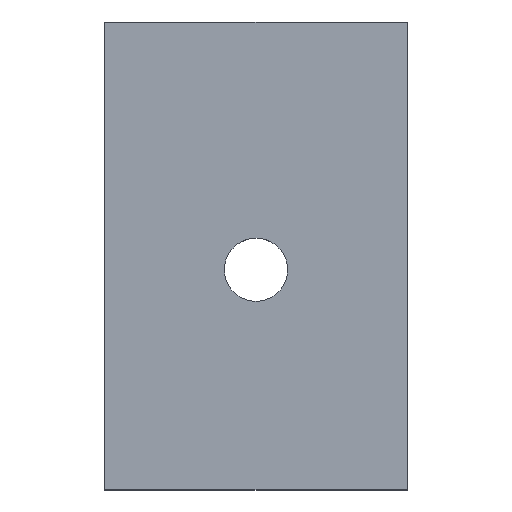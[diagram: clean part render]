
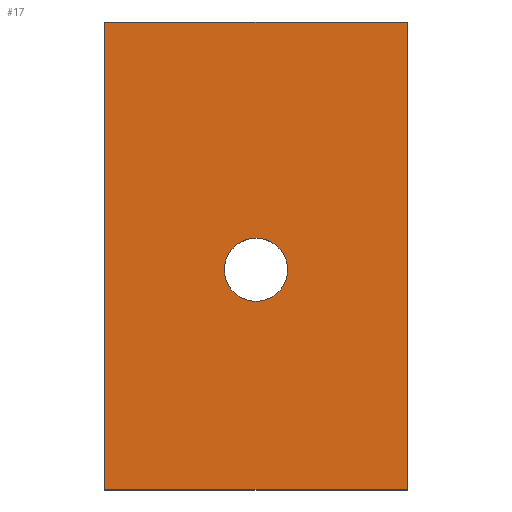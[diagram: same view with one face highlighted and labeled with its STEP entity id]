
A CAD part, top view. The second image highlights one B-rep face of the part: STEP entity #17.
In plain terms, the highlighted planar face has unit normal (0, 0, 1).
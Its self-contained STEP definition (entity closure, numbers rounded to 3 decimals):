
#17 = ADVANCED_FACE('',(#18,#137),#32,.F.);
#18 = FACE_BOUND('',#19,.F.);
#19 = EDGE_LOOP('',(#20,#55,#83,#111));
#20 = ORIENTED_EDGE('',*,*,#21,.F.);
#21 = EDGE_CURVE('',#22,#24,#26,.T.);
#22 = VERTEX_POINT('',#23);
#23 = CARTESIAN_POINT('',(-33.,0.,170.));
#24 = VERTEX_POINT('',#25);
#25 = CARTESIAN_POINT('',(-55.,0.,170.));
#26 = SURFACE_CURVE('',#27,(#31,#43),.PCURVE_S1.);
#27 = LINE('',#28,#29);
#28 = CARTESIAN_POINT('',(-33.,0.,170.));
#29 = VECTOR('',#30,1.);
#30 = DIRECTION('',(-1.,0.,0.));
#31 = PCURVE('',#32,#37);
#32 = PLANE('',#33);
#33 = AXIS2_PLACEMENT_3D('',#34,#35,#36);
#34 = CARTESIAN_POINT('',(-55.,0.,170.));
#35 = DIRECTION('',(0.,0.,-1.));
#36 = DIRECTION('',(0.,-1.,0.));
#37 = DEFINITIONAL_REPRESENTATION('',(#38),#42);
#38 = LINE('',#39,#40);
#39 = CARTESIAN_POINT('',(0.,-22.));
#40 = VECTOR('',#41,1.);
#41 = DIRECTION('',(0.,1.));
#42 = ( GEOMETRIC_REPRESENTATION_CONTEXT(2) 
PARAMETRIC_REPRESENTATION_CONTEXT() REPRESENTATION_CONTEXT('2D SPACE',''
  ) );
#43 = PCURVE('',#44,#49);
#44 = PLANE('',#45);
#45 = AXIS2_PLACEMENT_3D('',#46,#47,#48);
#46 = CARTESIAN_POINT('',(-55.,0.,136.));
#47 = DIRECTION('',(0.,-1.,0.));
#48 = DIRECTION('',(0.,0.,1.));
#49 = DEFINITIONAL_REPRESENTATION('',(#50),#54);
#50 = LINE('',#51,#52);
#51 = CARTESIAN_POINT('',(34.,-22.));
#52 = VECTOR('',#53,1.);
#53 = DIRECTION('',(0.,1.));
#54 = ( GEOMETRIC_REPRESENTATION_CONTEXT(2) 
PARAMETRIC_REPRESENTATION_CONTEXT() REPRESENTATION_CONTEXT('2D SPACE',''
  ) );
#55 = ORIENTED_EDGE('',*,*,#56,.F.);
#56 = EDGE_CURVE('',#57,#22,#59,.T.);
#57 = VERTEX_POINT('',#58);
#58 = CARTESIAN_POINT('',(-33.,-34.,170.));
#59 = SURFACE_CURVE('',#60,(#64,#71),.PCURVE_S1.);
#60 = LINE('',#61,#62);
#61 = CARTESIAN_POINT('',(-33.,-34.,170.));
#62 = VECTOR('',#63,1.);
#63 = DIRECTION('',(0.,1.,0.));
#64 = PCURVE('',#32,#65);
#65 = DEFINITIONAL_REPRESENTATION('',(#66),#70);
#66 = LINE('',#67,#68);
#67 = CARTESIAN_POINT('',(34.,-22.));
#68 = VECTOR('',#69,1.);
#69 = DIRECTION('',(-1.,0.));
#70 = ( GEOMETRIC_REPRESENTATION_CONTEXT(2) 
PARAMETRIC_REPRESENTATION_CONTEXT() REPRESENTATION_CONTEXT('2D SPACE',''
  ) );
#71 = PCURVE('',#72,#77);
#72 = PLANE('',#73);
#73 = AXIS2_PLACEMENT_3D('',#74,#75,#76);
#74 = CARTESIAN_POINT('',(-33.,-17.,167.5));
#75 = DIRECTION('',(1.,0.,0.));
#76 = DIRECTION('',(0.,-1.,0.));
#77 = DEFINITIONAL_REPRESENTATION('',(#78),#82);
#78 = LINE('',#79,#80);
#79 = CARTESIAN_POINT('',(17.,-2.5));
#80 = VECTOR('',#81,1.);
#81 = DIRECTION('',(-1.,0.));
#82 = ( GEOMETRIC_REPRESENTATION_CONTEXT(2) 
PARAMETRIC_REPRESENTATION_CONTEXT() REPRESENTATION_CONTEXT('2D SPACE',''
  ) );
#83 = ORIENTED_EDGE('',*,*,#84,.F.);
#84 = EDGE_CURVE('',#85,#57,#87,.T.);
#85 = VERTEX_POINT('',#86);
#86 = CARTESIAN_POINT('',(-55.,-34.,170.));
#87 = SURFACE_CURVE('',#88,(#92,#99),.PCURVE_S1.);
#88 = LINE('',#89,#90);
#89 = CARTESIAN_POINT('',(-55.,-34.,170.));
#90 = VECTOR('',#91,1.);
#91 = DIRECTION('',(1.,0.,0.));
#92 = PCURVE('',#32,#93);
#93 = DEFINITIONAL_REPRESENTATION('',(#94),#98);
#94 = LINE('',#95,#96);
#95 = CARTESIAN_POINT('',(34.,0.));
#96 = VECTOR('',#97,1.);
#97 = DIRECTION('',(0.,-1.));
#98 = ( GEOMETRIC_REPRESENTATION_CONTEXT(2) 
PARAMETRIC_REPRESENTATION_CONTEXT() REPRESENTATION_CONTEXT('2D SPACE',''
  ) );
#99 = PCURVE('',#100,#105);
#100 = PLANE('',#101);
#101 = AXIS2_PLACEMENT_3D('',#102,#103,#104);
#102 = CARTESIAN_POINT('',(-55.,-34.,170.));
#103 = DIRECTION('',(0.,1.,0.));
#104 = DIRECTION('',(0.,0.,-1.));
#105 = DEFINITIONAL_REPRESENTATION('',(#106),#110);
#106 = LINE('',#107,#108);
#107 = CARTESIAN_POINT('',(0.,-0.));
#108 = VECTOR('',#109,1.);
#109 = DIRECTION('',(0.,-1.));
#110 = ( GEOMETRIC_REPRESENTATION_CONTEXT(2) 
PARAMETRIC_REPRESENTATION_CONTEXT() REPRESENTATION_CONTEXT('2D SPACE',''
  ) );
#111 = ORIENTED_EDGE('',*,*,#112,.F.);
#112 = EDGE_CURVE('',#24,#85,#113,.T.);
#113 = SURFACE_CURVE('',#114,(#118,#125),.PCURVE_S1.);
#114 = LINE('',#115,#116);
#115 = CARTESIAN_POINT('',(-55.,0.,170.));
#116 = VECTOR('',#117,1.);
#117 = DIRECTION('',(0.,-1.,0.));
#118 = PCURVE('',#32,#119);
#119 = DEFINITIONAL_REPRESENTATION('',(#120),#124);
#120 = LINE('',#121,#122);
#121 = CARTESIAN_POINT('',(0.,-0.));
#122 = VECTOR('',#123,1.);
#123 = DIRECTION('',(1.,0.));
#124 = ( GEOMETRIC_REPRESENTATION_CONTEXT(2) 
PARAMETRIC_REPRESENTATION_CONTEXT() REPRESENTATION_CONTEXT('2D SPACE',''
  ) );
#125 = PCURVE('',#126,#131);
#126 = PLANE('',#127);
#127 = AXIS2_PLACEMENT_3D('',#128,#129,#130);
#128 = CARTESIAN_POINT('',(-55.,-12.021,157.979));
#129 = DIRECTION('',(1.,0.,0.));
#130 = DIRECTION('',(0.,-1.,0.));
#131 = DEFINITIONAL_REPRESENTATION('',(#132),#136);
#132 = LINE('',#133,#134);
#133 = CARTESIAN_POINT('',(-12.021,-12.021));
#134 = VECTOR('',#135,1.);
#135 = DIRECTION('',(1.,0.));
#136 = ( GEOMETRIC_REPRESENTATION_CONTEXT(2) 
PARAMETRIC_REPRESENTATION_CONTEXT() REPRESENTATION_CONTEXT('2D SPACE',''
  ) );
#137 = FACE_BOUND('',#138,.F.);
#138 = EDGE_LOOP('',(#139));
#139 = ORIENTED_EDGE('',*,*,#140,.F.);
#140 = EDGE_CURVE('',#141,#141,#143,.T.);
#141 = VERTEX_POINT('',#142);
#142 = CARTESIAN_POINT('',(-41.7,-18.,170.));
#143 = SURFACE_CURVE('',#144,(#149,#156),.PCURVE_S1.);
#144 = CIRCLE('',#145,2.3);
#145 = AXIS2_PLACEMENT_3D('',#146,#147,#148);
#146 = CARTESIAN_POINT('',(-44.,-18.,170.));
#147 = DIRECTION('',(0.,0.,-1.));
#148 = DIRECTION('',(1.,0.,0.));
#149 = PCURVE('',#32,#150);
#150 = DEFINITIONAL_REPRESENTATION('',(#151),#155);
#151 = CIRCLE('',#152,2.3);
#152 = AXIS2_PLACEMENT_2D('',#153,#154);
#153 = CARTESIAN_POINT('',(18.,-11.));
#154 = DIRECTION('',(0.,-1.));
#155 = ( GEOMETRIC_REPRESENTATION_CONTEXT(2) 
PARAMETRIC_REPRESENTATION_CONTEXT() REPRESENTATION_CONTEXT('2D SPACE',''
  ) );
#156 = PCURVE('',#157,#162);
#157 = CYLINDRICAL_SURFACE('',#158,2.3);
#158 = AXIS2_PLACEMENT_3D('',#159,#160,#161);
#159 = CARTESIAN_POINT('',(-44.,-18.,171.));
#160 = DIRECTION('',(0.,0.,-1.));
#161 = DIRECTION('',(1.,0.,0.));
#162 = DEFINITIONAL_REPRESENTATION('',(#163),#167);
#163 = LINE('',#164,#165);
#164 = CARTESIAN_POINT('',(0.,1.));
#165 = VECTOR('',#166,1.);
#166 = DIRECTION('',(1.,0.));
#167 = ( GEOMETRIC_REPRESENTATION_CONTEXT(2) 
PARAMETRIC_REPRESENTATION_CONTEXT() REPRESENTATION_CONTEXT('2D SPACE',''
  ) );
